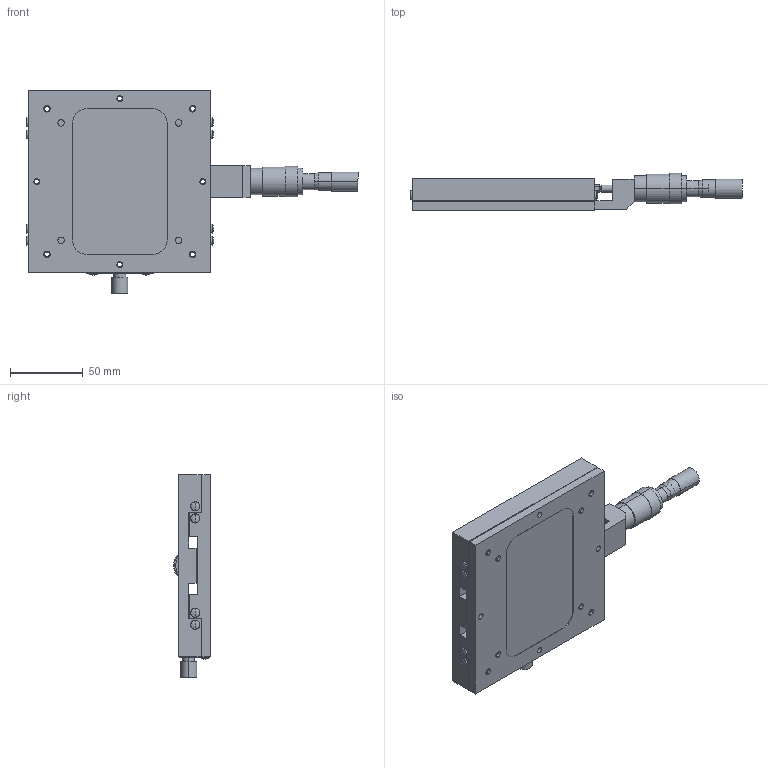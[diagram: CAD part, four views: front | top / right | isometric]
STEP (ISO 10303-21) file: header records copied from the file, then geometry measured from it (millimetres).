
FILE_DESCRIPTION (( 'STEP AP203' ), '1' );
FILE_NAME ('LS-147-C2.STEP', '2008-01-18T02:20:51', ( '' ), ( '' ), 'SwSTEP 2.0', 'SolidWorks 2007', '' );
FILE_SCHEMA (( 'CONFIG_CONTROL_DESIGN' ));
Length unit declared in the file: millimetre
Products named in the file (3): LS-147-C2; LS-147-C2-1_蹬怮椔; LS-147-C2-2_蹬怮椔
Assembly tree (2 placements, depth 2):
  LS-147-C2
    LS-147-C2-2_蹬怮椔
    LS-147-C2-1_蹬怮椔
Bounding box: 227.9 x 25.5 x 139.3 mm (x, y, z)
Volume: 337725.6 mm3; surface area: 95670.8 mm2
Topology: 3 solids, 3 shells, 285 faces, 680 edges, 448 vertices
Faces by surface type: cylinder 149, plane 94, cone 22, sphere 18, bspline 2
Entity records: 9242 total; most frequent: CARTESIAN_POINT 1828, DIRECTION 1609, ORIENTED_EDGE 1360, EDGE_CURVE 680, AXIS2_PLACEMENT_3D 645, VERTEX_POINT 448, EDGE_LOOP 402, CIRCLE 357
